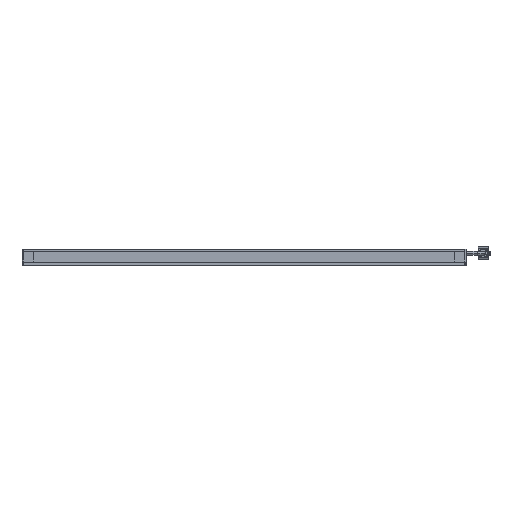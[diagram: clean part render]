
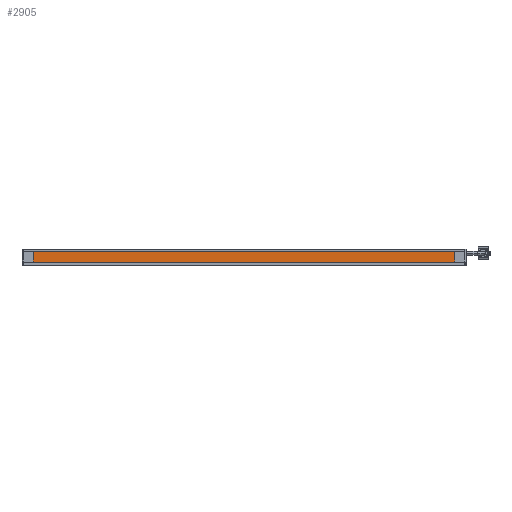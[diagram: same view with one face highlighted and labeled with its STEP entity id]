
A CAD part, front view. The second image highlights one B-rep face of the part: STEP entity #2905.
In plain terms, the highlighted planar face has unit normal (0, -1, 0).
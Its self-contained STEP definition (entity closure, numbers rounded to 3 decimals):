
#2 = DIRECTION ( 'NONE',  ( 0., 0., 1. ) ) ;
#212 = DIRECTION ( 'NONE',  ( 0., 0., 1. ) ) ;
#604 = ORIENTED_EDGE ( 'NONE', *, *, #3291, .F. ) ;
#815 = PLANE ( 'NONE',  #10122 ) ;
#955 = DIRECTION ( 'NONE',  ( 0., 0., -1. ) ) ;
#1128 = LINE ( 'NONE', #5743, #10179 ) ;
#1802 = VERTEX_POINT ( 'NONE', #5708 ) ;
#1814 = ORIENTED_EDGE ( 'NONE', *, *, #9622, .T. ) ;
#2119 = LINE ( 'NONE', #8945, #8490 ) ;
#2375 = CARTESIAN_POINT ( 'NONE',  ( -170.7, -340., -8.5 ) ) ;
#2489 = VECTOR ( 'NONE', #2, 1000. ) ;
#2554 = VERTEX_POINT ( 'NONE', #4479 ) ;
#2571 = DIRECTION ( 'NONE',  ( 1., 0., 0. ) ) ;
#2626 = LINE ( 'NONE', #7843, #2489 ) ;
#2905 = ADVANCED_FACE ( 'NONE', ( #10210 ), #815, .F. ) ;
#3291 = EDGE_CURVE ( 'NONE', #5871, #2554, #2119, .T. ) ;
#3692 = EDGE_CURVE ( 'NONE', #2554, #4963, #1128, .T. ) ;
#3881 = CARTESIAN_POINT ( 'NONE',  ( -170.7, -340., 0. ) ) ;
#4479 = CARTESIAN_POINT ( 'NONE',  ( -170.7, -340., 0. ) ) ;
#4486 = ORIENTED_EDGE ( 'NONE', *, *, #9618, .T. ) ;
#4713 = CARTESIAN_POINT ( 'NONE',  ( -170.7, -340., -8.5 ) ) ;
#4963 = VERTEX_POINT ( 'NONE', #6536 ) ;
#5570 = EDGE_LOOP ( 'NONE', ( #4486, #6664, #604, #1814 ) ) ;
#5708 = CARTESIAN_POINT ( 'NONE',  ( 170.7, -340., -8.5 ) ) ;
#5743 = CARTESIAN_POINT ( 'NONE',  ( -170.7, -340., 0. ) ) ;
#5871 = VERTEX_POINT ( 'NONE', #2375 ) ;
#6296 = DIRECTION ( 'NONE',  ( 0., 1., 0. ) ) ;
#6536 = CARTESIAN_POINT ( 'NONE',  ( 170.7, -340., 0. ) ) ;
#6664 = ORIENTED_EDGE ( 'NONE', *, *, #3692, .F. ) ;
#7179 = DIRECTION ( 'NONE',  ( 1., 0., 0. ) ) ;
#7843 = CARTESIAN_POINT ( 'NONE',  ( 170.7, -340., 0. ) ) ;
#8490 = VECTOR ( 'NONE', #212, 1000. ) ;
#8495 = VECTOR ( 'NONE', #7179, 1000. ) ;
#8853 = LINE ( 'NONE', #4713, #8495 ) ;
#8945 = CARTESIAN_POINT ( 'NONE',  ( -170.7, -340., 0. ) ) ;
#9618 = EDGE_CURVE ( 'NONE', #1802, #4963, #2626, .T. ) ;
#9622 = EDGE_CURVE ( 'NONE', #5871, #1802, #8853, .T. ) ;
#10122 = AXIS2_PLACEMENT_3D ( 'NONE', #3881, #6296, #955 ) ;
#10179 = VECTOR ( 'NONE', #2571, 1000. ) ;
#10210 = FACE_OUTER_BOUND ( 'NONE', #5570, .T. ) ;
